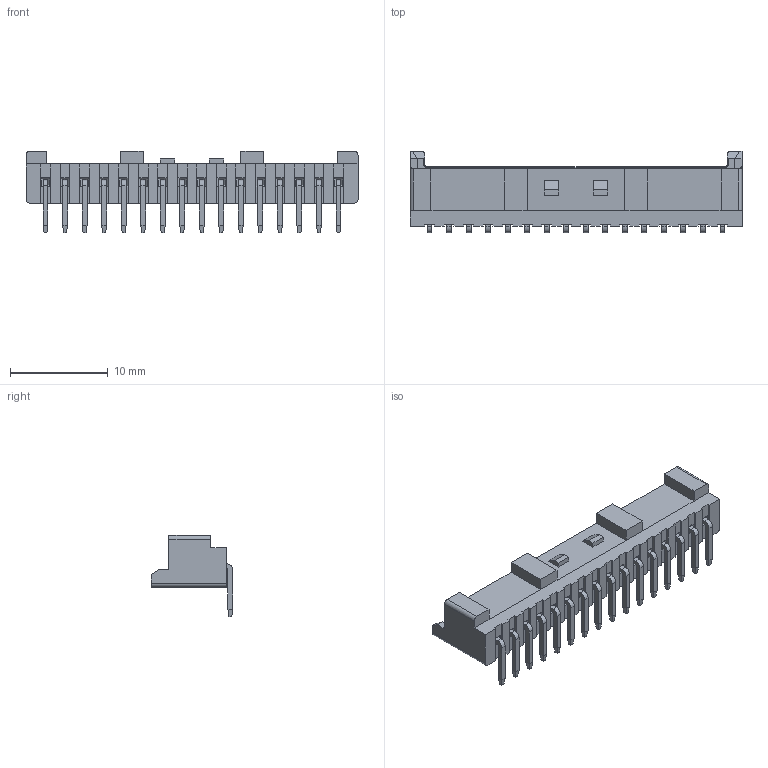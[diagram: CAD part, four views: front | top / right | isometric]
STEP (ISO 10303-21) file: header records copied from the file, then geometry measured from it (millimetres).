
FILE_DESCRIPTION(/* description */ (''),/* implementation_level */ '2;1');
FILE_NAME(/* name */ 'E:\工作文件\现出货3D文件\02宏一\PA\HC-PA-NAW-02（弯针-HCTL）\HC-PA-16AW-02（弯针-HCTL）.stp',/* time_stamp */ '2024-02-28T16:41:21+08:00',/* author */ ('admin'),/* organization */ (''),/* preprocessor_version */ 'ST-DEVELOPER v18.1',/* originating_system */ 'Autodesk Inventor 2021',/* authorisation */ '');
FILE_SCHEMA (('AUTOMOTIVE_DESIGN { 1 0 10303 214 3 1 1 }'));
Length unit declared in the file: millimetre
Products named in the file (1): HC-PA-16AW-02（弯针-HCTL）
Bounding box: 34 x 8.35 x 8.3 mm (x, y, z)
Volume: 559.3 mm3; surface area: 1353.6 mm2
Topology: 1 solids, 1 shells, 567 faces, 1375 edges, 844 vertices
Faces by surface type: plane 539, cylinder 26, cone 2
Entity records: 16353 total; most frequent: CARTESIAN_POINT 2787, ORIENTED_EDGE 2750, DIRECTION 2565, EDGE_CURVE 1375, LINE 1321, VECTOR 1321, VERTEX_POINT 844, AXIS2_PLACEMENT_3D 622
